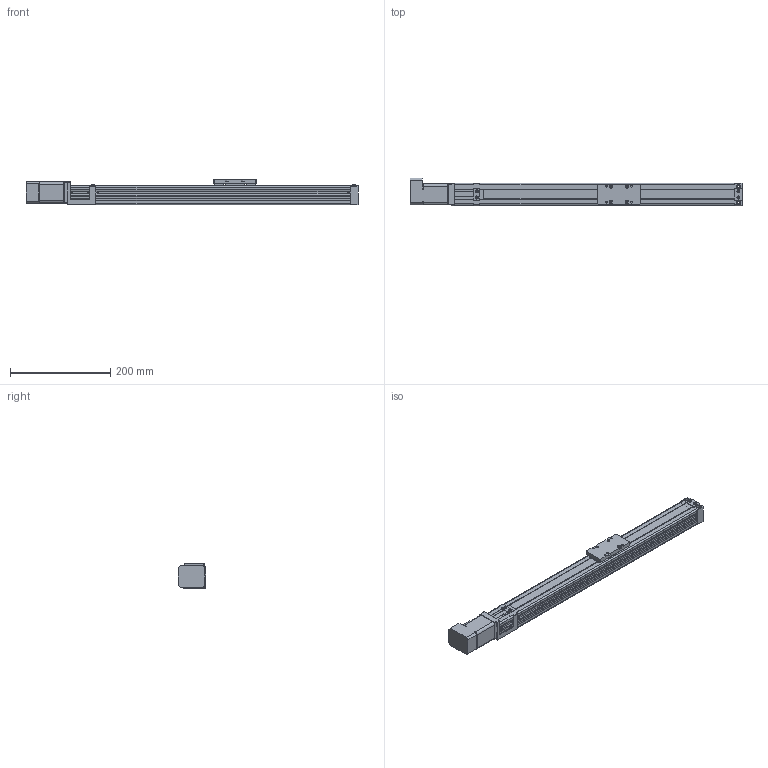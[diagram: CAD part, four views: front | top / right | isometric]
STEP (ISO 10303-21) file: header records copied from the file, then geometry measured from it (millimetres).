
FILE_DESCRIPTION((''),'2;1');
FILE_NAME('D:\製品 (図面)\カタログ用3D\SU部品\SU45×50\ダウンロード用\SU45×50-CM18\SU45×50-400-CM18.stp','2011-06-17T14:57:19',('Tsuchiya'),(''),'Autodesk Inventor 10','Autodesk Inventor 10','');
FILE_SCHEMA(('AUTOMOTIVE_DESIGN { 1 0 10303 214 1 1 1 1 }'));
Length unit declared in the file: millimetre
Products named in the file (4): SU45×50-400-CM18; SB45×50-400-MB42-1(1); SU45×50-T(1); マッスルモーター
Assembly tree (3 placements, depth 2):
  SU45×50-400-CM18
    SB45×50-400-MB42-1(1)
    SU45×50-T(1)
    マッスルモーター
Bounding box: 662.5 x 54.5 x 50 mm (x, y, z)
Volume: 493182.5 mm3; surface area: 251032.9 mm2
Topology: 3 solids, 3 shells, 746 faces, 1988 edges, 1307 vertices
Faces by surface type: plane 538, cylinder 99, bspline 73, torus 22, cone 14
Full cylindrical faces by diameter (mm): 2.459 x4, 3.242 x4, 3.4 x4, 4.5 x4, 5 x5, 6 x5, 7 x6, 8 x7, 10 x1, 20 x1, 22 x2, 30 x1
Entity records: 23072 total; most frequent: CARTESIAN_POINT 5206, ORIENTED_EDGE 3640, DIRECTION 3440, EDGE_CURVE 1820, VECTOR 1392, LINE 1392, VERTEX_POINT 1262, AXIS2_PLACEMENT_3D 1024
